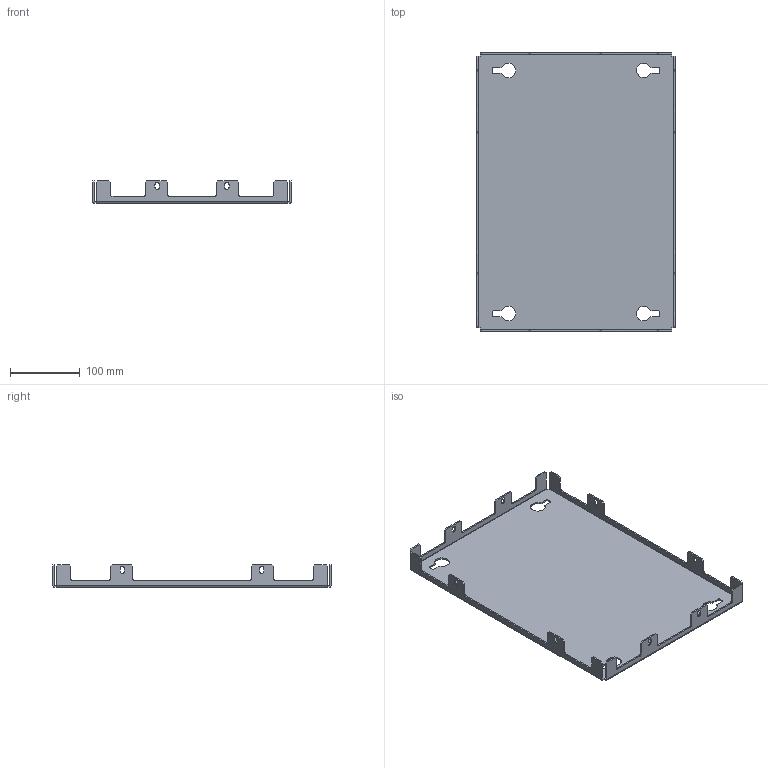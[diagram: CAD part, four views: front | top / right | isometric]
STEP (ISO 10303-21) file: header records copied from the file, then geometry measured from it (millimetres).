
FILE_DESCRIPTION (( 'STEP AP203' ), '1' );
FILE_NAME ('R5LPS0504.STEP', '2021-12-17T12:14:07', ( '' ), ( '' ), 'SwSTEP 2.0', 'SolidWorks 2020', '' );
FILE_SCHEMA (( 'CONFIG_CONTROL_DESIGN' ));
Length unit declared in the file: millimetre
Products named in the file (1): R5LPS0504
Bounding box: 284 x 398 x 32.5 mm (x, y, z)
Volume: 259488.9 mm3; surface area: 264791.8 mm2
Topology: 1 solids, 1 shells, 224 faces, 634 edges, 412 vertices
Faces by surface type: plane 146, cylinder 78
Entity records: 7343 total; most frequent: CARTESIAN_POINT 1271, ORIENTED_EDGE 1268, DIRECTION 1240, EDGE_CURVE 634, VECTOR 478, LINE 478, VERTEX_POINT 412, AXIS2_PLACEMENT_3D 381
